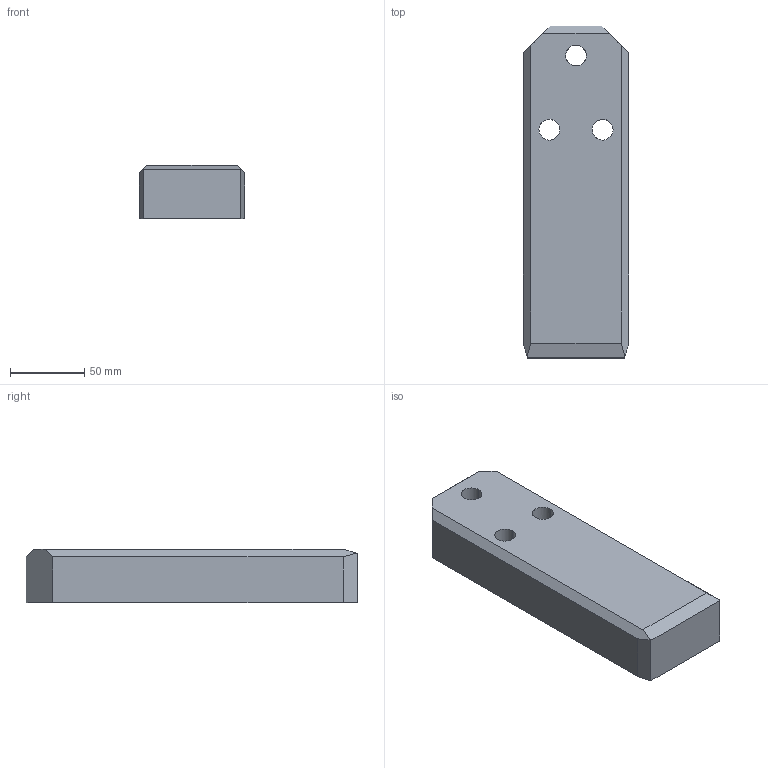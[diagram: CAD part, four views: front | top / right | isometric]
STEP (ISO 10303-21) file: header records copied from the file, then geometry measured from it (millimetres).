
FILE_DESCRIPTION(('CATIA V5 STEP Exchange'),'2;1');
FILE_NAME('C:\Users\borellobunino\Desktop\3D X SITO CF\A927\GSB_OILLESS_G2290507122436\STEP-2.03\A927-71X224X36.stp','2019-07-14T19:59:00+00:00',('none'),('none'),'CATIA Version 5 Release 20 GA (IN-10)','CATIA V5 STEP AP203','none');
FILE_SCHEMA(('CONFIG_CONTROL_DESIGN'));
Length unit declared in the file: millimetre
Products named in the file (1): A927-71X224X36
Bounding box: 71 x 224 x 36 mm (x, y, z)
Volume: 528795.4 mm3; surface area: 54434.9 mm2
Topology: 1 solids, 1 shells, 35 faces, 84 edges, 54 vertices
Faces by surface type: plane 17, cylinder 12, cone 6
Entity records: 1296 total; most frequent: CARTESIAN_POINT 450, ORIENTED_EDGE 168, DIRECTION 142, EDGE_CURVE 84, AXIS2_PLACEMENT_3D 54, VECTOR 54, LINE 54, VERTEX_POINT 54
